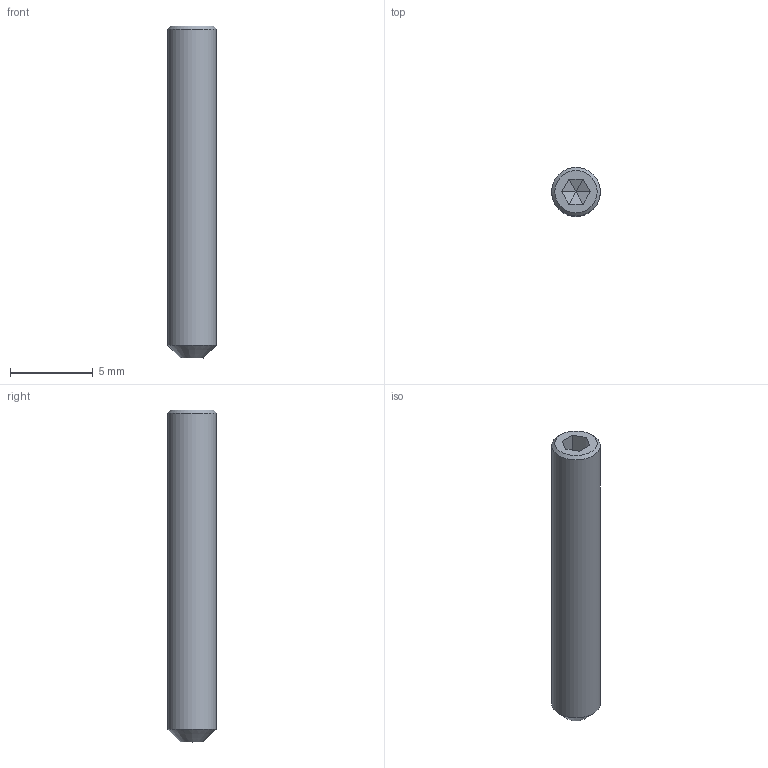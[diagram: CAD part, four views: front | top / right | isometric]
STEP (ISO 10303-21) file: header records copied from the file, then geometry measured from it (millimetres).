
FILE_DESCRIPTION(/* description */ (''),/* implementation_level */ '2;1');
FILE_NAME(/* name */ 'M3 Cup Point Grub Screw - DIN 916 - A2 Stainless Steel.step',/* time_stamp */ '2024-07-04T00:01:05+03:00',/* author */ (''),/* organization */ (''),/* preprocessor_version */ 'ST-DEVELOPER v20',/* originating_system */ 'Autodesk Translation Framework v13.14.0.145',/* authorisation */ '');
FILE_SCHEMA (('AUTOMOTIVE_DESIGN { 1 0 10303 214 3 1 1 }'));
Length unit declared in the file: millimetre
Products named in the file (2): M3 Cup Point Grub Screw - DIN 916 - A2 Stainless Steel; Set Screw DIN 916 - M3 x 20 Stainless Steel A2 Plain v1
Assembly tree (1 placements, depth 2):
  M3 Cup Point Grub Screw - DIN 916 - A2 Stainless Steel
    Set Screw DIN 916 - M3 x 20 Stainless Steel A2 Plain v1
Bounding box: 2.93 x 2.93 x 20 mm (x, y, z)
Volume: 127.9 mm3; surface area: 202.3 mm2
Topology: 1 solids, 1 shells, 17 faces, 33 edges, 18 vertices
Faces by surface type: plane 13, cone 3, cylinder 1
Full cylindrical faces by diameter (mm): 2.927 x1
Entity records: 470 total; most frequent: DIRECTION 76, CARTESIAN_POINT 70, ORIENTED_EDGE 64, EDGE_CURVE 32, LINE 28, VECTOR 28, AXIS2_PLACEMENT_3D 24, EDGE_LOOP 18
